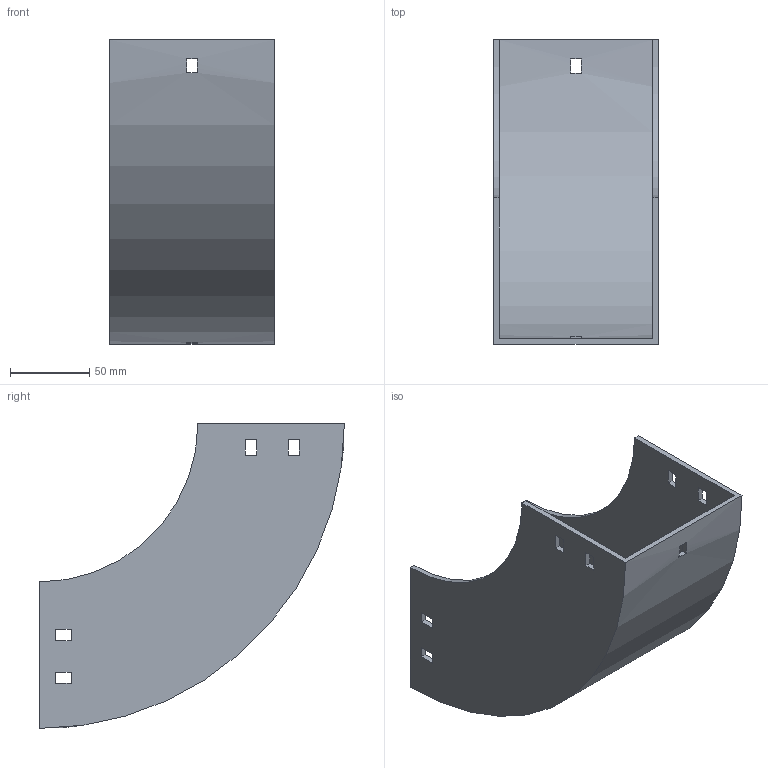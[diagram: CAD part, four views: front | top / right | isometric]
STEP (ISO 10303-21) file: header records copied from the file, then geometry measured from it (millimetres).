
FILE_DESCRIPTION (( 'STEP AP214' ), '1' );
FILE_NAME ('30B1I100.step', '2025-02-21T09:51:13', ( '' ), ( '' ), 'SwSTEP 2.0', 'SolidWorks 2023', '' );
FILE_SCHEMA (( 'AUTOMOTIVE_DESIGN' ));
Length unit declared in the file: millimetre
Products named in the file (1): 30B1I100
Bounding box: 104 x 192.5 x 192.5 mm (x, y, z)
Volume: 248102.6 mm3; surface area: 146035.6 mm2
Topology: 1 solids, 1 shells, 50 faces, 144 edges, 96 vertices
Faces by surface type: plane 46, cylinder 4
Entity records: 1687 total; most frequent: CARTESIAN_POINT 291, ORIENTED_EDGE 288, DIRECTION 262, EDGE_CURVE 144, VECTOR 128, LINE 128, VERTEX_POINT 96, EDGE_LOOP 70
